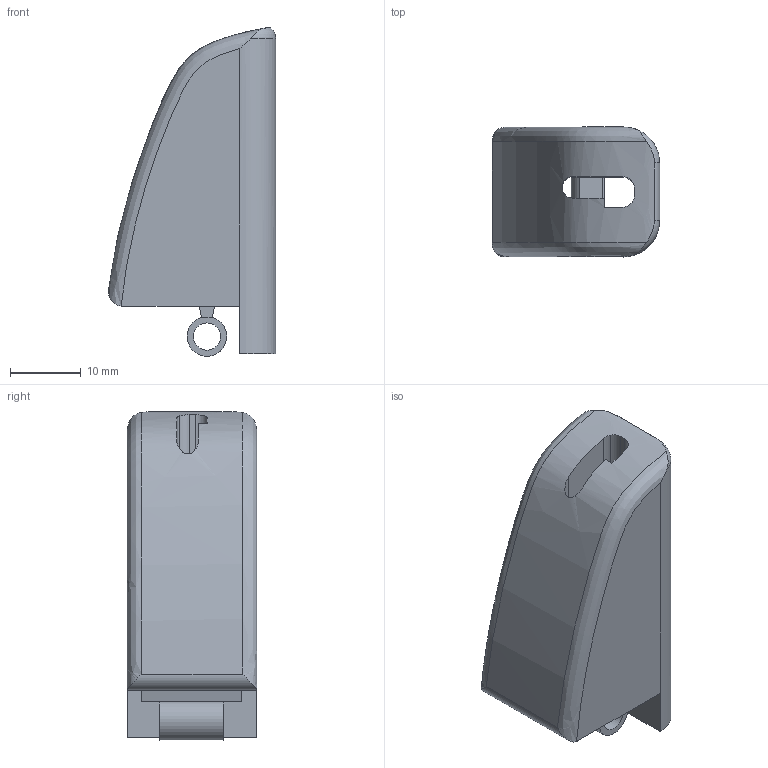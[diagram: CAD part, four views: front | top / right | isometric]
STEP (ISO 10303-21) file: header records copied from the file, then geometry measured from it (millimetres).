
FILE_DESCRIPTION(/* description */ ('STEP AP242 Edition 2','CAx-IF Rec.Pracs.---Representation and Presentation of Product Manufacturing Information (PMI)---4.0---2014-10-13','CAx-IF Rec.Pracs.---3D Tessellated Geometry---0.4---2014-09-14','2;1','CAx-IF Rec.Pracs.---User Defined Attributes---1.5---2016-08-15'),/* implementation_level */ '2;1');
FILE_NAME(/* name */ 'Main - Ring Tih',/* time_stamp */ '2026-06-25T16:15:31Z',/* author */ (''),/* organization */ (''),/* preprocessor_version */ 'ST-DEVELOPER v20',/* originating_system */ 'ONSHAPE BY PTC INC, 1.216',/* authorisation */ ' ');
FILE_SCHEMA (('AP242_MANAGED_MODEL_BASED_3D_ENGINEERING_MIM_LF { 1 0 10303 442 3 1 4 }'));
Length unit declared in the file: metre
Products named in the file (1): Ring Tih
Bounding box: 23.73 x 18.37 x 46.59 mm (x, y, z)
Volume: 12187 mm3; surface area: 4862.6 mm2
Topology: 1 solids, 1 shells, 57 faces, 164 edges, 106 vertices
Faces by surface type: plane 37, cylinder 13, bspline 3, torus 2, cone 2
Full cylindrical faces by diameter (mm): 3.865 x1
Entity records: 2120 total; most frequent: CARTESIAN_POINT 617, ORIENTED_EDGE 326, DIRECTION 284, EDGE_CURVE 163, LINE 110, VECTOR 110, VERTEX_POINT 106, AXIS2_PLACEMENT_3D 87
